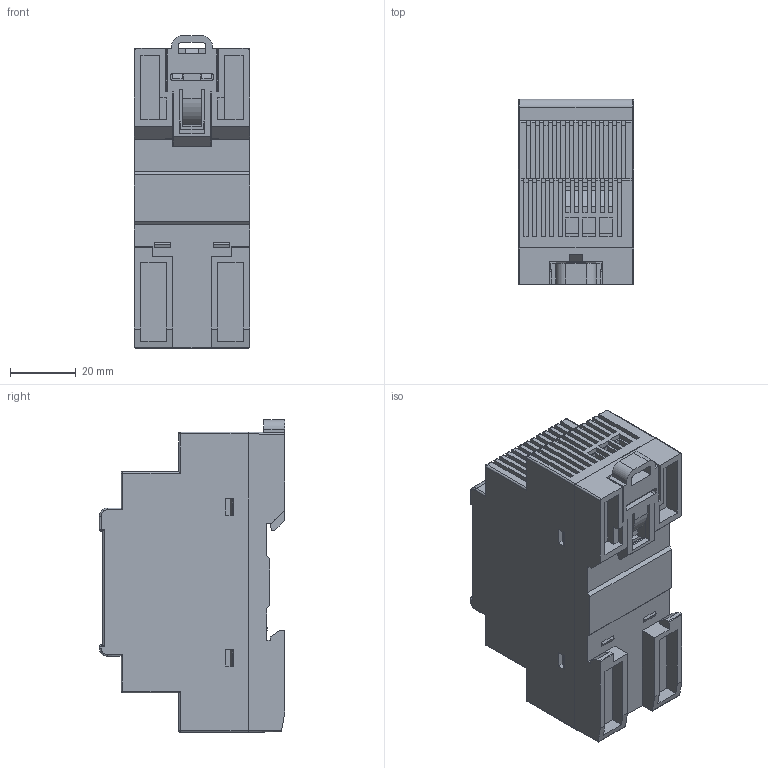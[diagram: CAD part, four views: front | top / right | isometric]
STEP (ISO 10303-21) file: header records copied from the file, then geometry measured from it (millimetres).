
FILE_DESCRIPTION (( 'STEP AP214' ), '1' );
FILE_NAME ('DDC30.STEP', '2015-10-02T13:37:52', ( '' ), ( '' ), 'SwSTEP 2.0', 'SolidWorks 2015', '' );
FILE_SCHEMA (( 'AUTOMOTIVE_DESIGN' ));
Length unit declared in the file: inch
Products named in the file (1): DDC30
Bounding box: 35 x 56.15 x 94.78 mm (x, y, z)
Volume: 134470.5 mm3; surface area: 36020.4 mm2
Topology: 1 solids, 9 shells, 1039 faces, 3020 edges, 1974 vertices
Faces by surface type: plane 829, cylinder 194, bspline 16
Entity records: 37037 total; most frequent: CARTESIAN_POINT 6419, ORIENTED_EDGE 6016, DIRECTION 5376, EDGE_CURVE 3008, VECTOR 2566, LINE 2566, VERTEX_POINT 1974, AXIS2_PLACEMENT_3D 1405
